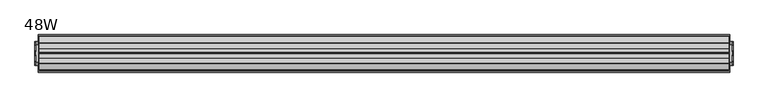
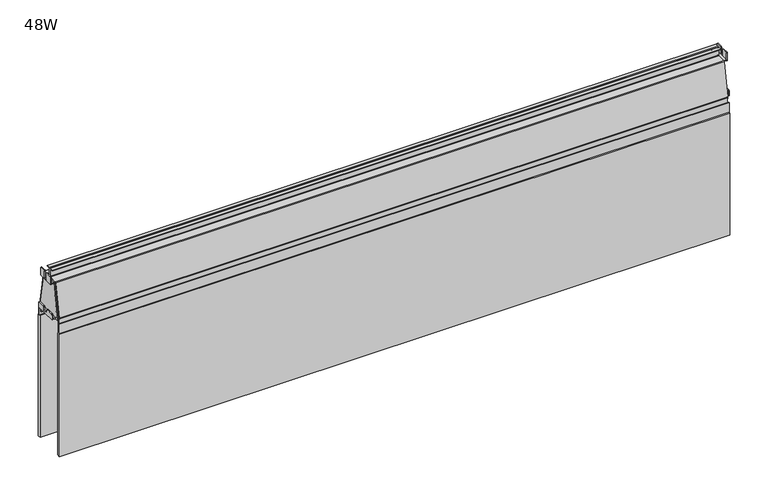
"""IFC4 building model written with IfcOpenShell, lengths in millimetres: furniture geometry, Steelcase Turnstone - Bivi - Accessories - High Sit Bracket with Modesty Panel : 48W."""

from ifc_helpers import new_model, si_unit, point, frame, frame_2d, origin, place, context, project, spatial, polyline, circle_curve, trimmed, segment, composite_curve, outline, extrude, source, transform, mapped, element, save
from ifc_brep_helpers import plane_surface, cylinder_surface, revolved_surface, advanced_brep


def furniture_48w_80b5658e(model_context):
    return source(origin(), model_context, "Body", "SolidModel", [
        extrude(outline(polyline([(1322.578, 62.4245382), (1322.578, 102.4290731), (1326.9973142, 102.4290731), (1326.9973142, 62.4245382), (1322.578, 62.4245382)])), frame((0.0, 0.0, 971.7621964), z_axis=(0.0, 0.0, 1.0), x_axis=(1.0, 0.0, 0.0)), (0.0, 0.0, 1.0), 2.2606178),
        extrude(outline(polyline([(1322.578, 67.9265279), (1322.578, 96.8235489), (1326.9973142, 96.8235489), (1326.9973142, 67.9265279), (1322.578, 67.9265279)])), frame((0.0, 0.0, 1033.6165755), z_axis=(0.0, 0.0, 1.0), x_axis=(1.0, 0.0, 0.0)), (0.0, 0.0, 1.0), 1.7477706),
        extrude(outline(composite_curve([segment(polyline([(67.9265279, 1033.6165755), (67.9265279, 1047.4581981)]), True, "CONTINUOUS"), segment(trimmed(circle_curve(frame_2d((68.8135699, 1047.4581981)), 0.887042), [point((67.9265279, 1047.4581981))], [point((68.8135699, 1048.3452401))], False, "CARTESIAN"), True, "CONTINUOUS"), segment(polyline([(68.8135699, 1048.3452401), (78.2610567, 1048.3452401)]), True, "CONTINUOUS"), segment(trimmed(circle_curve(frame_2d((78.2610567, 1047.1627838)), 1.1824563), [point((78.2610567, 1048.3452401))], [point((79.443513, 1047.1627838))], False, "CARTESIAN"), True, "CONTINUOUS"), segment(polyline([(79.443513, 1047.1627838), (79.443513, 1035.3644915), (85.4277852, 1035.3644915), (85.4277852, 1047.1882087)]), True, "CONTINUOUS"), segment(trimmed(circle_curve(frame_2d((86.5848166, 1047.1882087)), 1.1570313), [point((85.4277852, 1047.1882087))], [point((86.5848166, 1048.3452401))], False, "CARTESIAN"), True, "CONTINUOUS"), segment(polyline([(86.5848166, 1048.3452401), (95.8530462, 1048.3452401)]), True, "CONTINUOUS"), segment(trimmed(circle_curve(frame_2d((95.8530462, 1047.2712029)), 1.0740372), [point((95.8530462, 1048.3452401))], [point((96.9270833, 1047.2712029))], False, "CARTESIAN"), True, "CONTINUOUS"), segment(polyline([(96.9270833, 1047.2712029), (96.9270833, 1033.6165755), (67.9265279, 1033.6165755)]), True, "CONTINUOUS")], self_intersect=False)), frame((1326.9973142, 0.0, 0.0), z_axis=(1.0, 0.0, 0.0), x_axis=(0.0, 1.0, 0.0)), (0.0, 0.0, 1.0), 1.4999084),
        extrude(outline(composite_curve([segment(trimmed(circle_curve(frame_2d((76.0547241, 979.9142284)), 1.9270039), [point((76.0547241, 981.8412323))], [point((77.9817281, 979.9142284))], False, "CARTESIAN"), True, "CONTINUOUS"), segment(polyline([(77.9817281, 979.9142284), (77.9817281, 974.7655741), (86.8718831, 974.7655741), (86.8718831, 980.0617922)]), True, "CONTINUOUS"), segment(trimmed(circle_curve(frame_2d((88.6513232, 980.0617922)), 1.7794401), [point((86.8718831, 980.0617922))], [point((88.6513232, 981.8412323))], False, "CARTESIAN"), True, "CONTINUOUS"), segment(polyline([(88.6513232, 981.8412323), (100.3925404, 981.8412323)]), True, "CONTINUOUS"), segment(trimmed(circle_curve(frame_2d((100.3925404, 979.8046996)), 2.0365327), [point((100.3925404, 981.8412323))], [point((102.4290731, 979.8046996))], False, "CARTESIAN"), True, "CONTINUOUS"), segment(polyline([(102.4290731, 979.8046996), (102.4290731, 971.7621964), (82.4398102, 971.7621964), (62.4245382, 971.7621964), (62.4245382, 980.0326664)]), True, "CONTINUOUS"), segment(trimmed(circle_curve(frame_2d((64.233104, 980.0326664)), 1.8085659), [point((62.4245382, 980.0326664))], [point((64.233104, 981.8412323))], False, "CARTESIAN"), True, "CONTINUOUS"), segment(polyline([(64.233104, 981.8412323), (76.0547241, 981.8412323)]), True, "CONTINUOUS")], self_intersect=False)), frame((1326.9973142, 0.0, 0.0), z_axis=(1.0, 0.0, 0.0), x_axis=(0.0, 1.0, 0.0)), (0.0, 0.0, 1.0), 1.4999084),
        extrude(outline(polyline([(154.178, 62.4245382), (149.7586858, 62.4245382), (149.7586858, 102.4290731), (154.178, 102.4290731), (154.178, 62.4245382)])), frame((0.0, 0.0, 971.7621964), z_axis=(0.0, 0.0, 1.0), x_axis=(1.0, 0.0, 0.0)), (0.0, 0.0, 1.0), 2.2606178),
        extrude(outline(polyline([(154.178, 67.9265279), (149.7586858, 67.9265279), (149.7586858, 96.8235489), (154.178, 96.8235489), (154.178, 67.9265279)])), frame((0.0, 0.0, 1033.6165755), z_axis=(0.0, 0.0, 1.0), x_axis=(1.0, 0.0, 0.0)), (0.0, 0.0, 1.0), 1.7477706),
        extrude(outline(composite_curve([segment(polyline([(67.9265279, 1033.6165755), (67.9265279, 1047.4581981)]), True, "CONTINUOUS"), segment(trimmed(circle_curve(frame_2d((68.8135699, 1047.4581981)), 0.887042), [point((67.9265279, 1047.4581981))], [point((68.8135699, 1048.3452401))], False, "CARTESIAN"), True, "CONTINUOUS"), segment(polyline([(68.8135699, 1048.3452401), (78.2610567, 1048.3452401)]), True, "CONTINUOUS"), segment(trimmed(circle_curve(frame_2d((78.2610567, 1047.1627838)), 1.1824563), [point((78.2610567, 1048.3452401))], [point((79.443513, 1047.1627838))], False, "CARTESIAN"), True, "CONTINUOUS"), segment(polyline([(79.443513, 1047.1627838), (79.443513, 1035.3644915), (85.4277852, 1035.3644915), (85.4277852, 1047.1882087)]), True, "CONTINUOUS"), segment(trimmed(circle_curve(frame_2d((86.5848166, 1047.1882087)), 1.1570313), [point((85.4277852, 1047.1882087))], [point((86.5848166, 1048.3452401))], False, "CARTESIAN"), True, "CONTINUOUS"), segment(polyline([(86.5848166, 1048.3452401), (95.8530462, 1048.3452401)]), True, "CONTINUOUS"), segment(trimmed(circle_curve(frame_2d((95.8530462, 1047.2712029)), 1.0740372), [point((95.8530462, 1048.3452401))], [point((96.9270833, 1047.2712029))], False, "CARTESIAN"), True, "CONTINUOUS"), segment(polyline([(96.9270833, 1047.2712029), (96.9270833, 1033.6165755), (67.9265279, 1033.6165755)]), True, "CONTINUOUS")], self_intersect=False)), frame((148.2587773, 0.0, 0.0), z_axis=(1.0, 0.0, 0.0), x_axis=(0.0, 1.0, 0.0)), (0.0, 0.0, 1.0), 1.4999084),
        extrude(outline(composite_curve([segment(trimmed(circle_curve(frame_2d((76.0547241, 979.9142284)), 1.9270039), [point((76.0547241, 981.8412323))], [point((77.9817281, 979.9142284))], False, "CARTESIAN"), True, "CONTINUOUS"), segment(polyline([(77.9817281, 979.9142284), (77.9817281, 974.7655741), (86.8718831, 974.7655741), (86.8718831, 980.0617922)]), True, "CONTINUOUS"), segment(trimmed(circle_curve(frame_2d((88.6513232, 980.0617922)), 1.7794401), [point((86.8718831, 980.0617922))], [point((88.6513232, 981.8412323))], False, "CARTESIAN"), True, "CONTINUOUS"), segment(polyline([(88.6513232, 981.8412323), (100.3925404, 981.8412323)]), True, "CONTINUOUS"), segment(trimmed(circle_curve(frame_2d((100.3925404, 979.8046996)), 2.0365327), [point((100.3925404, 981.8412323))], [point((102.4290731, 979.8046996))], False, "CARTESIAN"), True, "CONTINUOUS"), segment(polyline([(102.4290731, 979.8046996), (102.4290731, 971.7621964), (82.4398102, 971.7621964), (62.4245382, 971.7621964), (62.4245382, 980.0326664)]), True, "CONTINUOUS"), segment(trimmed(circle_curve(frame_2d((64.233104, 980.0326664)), 1.8085659), [point((62.4245382, 980.0326664))], [point((64.233104, 981.8412323))], False, "CARTESIAN"), True, "CONTINUOUS"), segment(polyline([(64.233104, 981.8412323), (76.0547241, 981.8412323)]), True, "CONTINUOUS")], self_intersect=False)), frame((148.2587773, 0.0, 0.0), z_axis=(1.0, 0.0, 0.0), x_axis=(0.0, 1.0, 0.0)), (0.0, 0.0, 1.0), 1.4999084),
        extrude(outline(polyline([(56.9970023, 971.7621964), (68.2124562, 1035.3644915), (96.5348092, 1035.3644915), (107.8605404, 971.7621964), (56.9970023, 971.7621964)])), frame((1320.9263308, 0.0, 0.0), z_axis=(1.0, 0.0, 0.0), x_axis=(0.0, 1.0, 0.0)), (0.0, 0.0, 1.0), 1.6516692),
        extrude(outline(polyline([(56.9970023, 971.7621964), (68.2124305, 1035.3643461), (96.5348351, 1035.3643461), (107.8605404, 971.7621964), (56.9970023, 971.7621964)])), frame((154.178, 0.0, 0.0), z_axis=(1.0, 0.0, 0.0), x_axis=(0.0, 1.0, 0.0)), (0.0, 0.0, 1.0), 1.6516692),
        advanced_brep(
        [(1320.9263308, 80.9976272, 1037.2195381), (1320.9263308, 65.8460351, 1037.2195381), (1320.9263308, 64.5958542, 1036.1705117), (1320.9263308, 54.1639548, 977.0082706), (1320.9263308, 55.7575032, 975.5715007), (1320.9263308, 55.7575032, 956.4729406), (1320.9263308, 57.2806661, 956.4729406), (1320.9263308, 57.2806661, 975.5229406), (1320.9263308, 107.5729451, 975.5229406), (1320.9263308, 107.5729451, 956.4729406), (1320.9263308, 109.096108, 956.4729406), (1320.9263308, 109.096108, 975.5931057), (1320.9263308, 110.7579884, 977.0082706), (1320.9263308, 100.326089, 1036.1705117), (1320.9263308, 99.0759081, 1037.2195381), (1320.9263308, 83.924316, 1037.2195381), (1320.9263308, 83.3977957, 1037.7460584), (1320.9263308, 83.3977957, 1051.4672481), (1320.9263308, 83.9075425, 1051.9769949), (1320.9263308, 90.0377005, 1051.9769949), (1320.9263308, 90.0377005, 1052.8659668), (1320.9263308, 83.7221189, 1052.8659668), (1320.9263308, 82.5014645, 1051.6453124), (1320.9263308, 81.2494337, 1052.8659668), (1320.9263308, 74.8842427, 1052.8659668), (1320.9263308, 74.8842427, 1051.9769949), (1320.9263308, 81.0144007, 1051.9769949), (1320.9263308, 81.5241475, 1051.4672481), (1320.9263308, 81.5241475, 1037.7460584), (1320.9263308, 66.0050637, 1036.3263319), (1320.9263308, 81.2971318, 1036.3263319), (1320.9263308, 82.4700881, 1037.4992882), (1320.9263308, 83.6744208, 1036.3263319), (1320.9263308, 98.9168795, 1036.3263319), (1320.9263308, 99.4743251, 1035.8585795), (1320.9263308, 109.857677, 976.9716646), (1320.9263308, 109.38866, 976.4127119), (1320.9263308, 55.5332832, 976.4127119), (1320.9263308, 55.0642662, 976.9716646), (1320.9263308, 65.4476181, 1035.8585795), (155.8296692, 80.9976272, 1037.2195381), (155.8296692, 81.5241475, 1037.7460584), (155.8296692, 81.5241475, 1051.4672481), (155.8296692, 81.0144007, 1051.9769949), (155.8296692, 74.8842427, 1051.9769949), (155.8296692, 74.8842427, 1052.8659668), (155.8296692, 81.2494337, 1052.8659668), (155.8296692, 82.4700881, 1051.6453124), (155.8296692, 83.7221189, 1052.8659668), (155.8296692, 90.0377005, 1052.8659668), (155.8296692, 90.0377005, 1051.9769949), (155.8296692, 83.9075425, 1051.9769949), (155.8296692, 83.3977957, 1051.4672481), (155.8296692, 83.3977957, 1037.7460584), (155.8296692, 83.924316, 1037.2195381), (155.8296692, 99.0759081, 1037.2195381), (155.8296692, 100.326089, 1036.1705117), (155.8296692, 110.7579884, 977.0082706), (155.8296692, 109.096108, 975.5931057), (155.8296692, 109.096108, 956.4729406), (155.8296692, 107.5729451, 956.4729406), (155.8296692, 107.5729451, 975.5229406), (155.8296692, 57.2806661, 975.5229406), (155.8296692, 57.2806661, 956.4729406), (155.8296692, 55.7575032, 956.4729406), (155.8296692, 55.7575032, 975.5715007), (155.8296692, 54.1639548, 977.0082706), (155.8296692, 64.5958542, 1036.1705117), (155.8296692, 65.8460351, 1037.2195381), (155.8296692, 66.0050637, 1036.3263319), (155.8296692, 65.4476181, 1035.8585795), (155.8296692, 55.0642662, 976.9716646), (155.8296692, 55.5332832, 976.4127119), (155.8296692, 109.38866, 976.4127119), (155.8296692, 109.857677, 976.9716646), (155.8296692, 99.4743251, 1035.8585795), (155.8296692, 98.9168795, 1036.3263319), (155.8296692, 83.6744208, 1036.3263319), (155.8296692, 82.5014645, 1037.4992882), (155.8296692, 81.2971318, 1036.3263319)],
        [
            (0, 1),
            (1, 2, circle_curve(frame((1320.9263308, 65.8460351, 1035.9500711), z_axis=(1.0, 0.0, 0.0), x_axis=(0.0, -1.0, 0.0)), 1.269467)),
            (2, 3),
            (3, 4, circle_curve(frame((1320.9263308, 55.4102946, 976.7885072), z_axis=(1.0, 0.0, 0.0), x_axis=(0.0, -1.0, 0.0)), 1.2655666)),
            (4, 5),
            (5, 6),
            (6, 7),
            (7, 8),
            (8, 9),
            (9, 10),
            (10, 11),
            (11, 12, circle_curve(frame((1320.9263308, 109.5116486, 976.7885072), z_axis=(1.0, 0.0, 0.0), x_axis=(0.0, -1.0, 0.0)), 1.2655666)),
            (12, 13),
            (13, 14, circle_curve(frame((1320.9263308, 99.0759081, 1035.9500711), z_axis=(1.0, 0.0, 0.0), x_axis=(0.0, -1.0, 0.0)), 1.269467)),
            (14, 15),
            (15, 16, circle_curve(frame((1320.9263308, 83.924316, 1037.7460584), z_axis=(-1.0, 0.0, 0.0), x_axis=(0.0, -1.0, 0.0)), 0.5265203)),
            (16, 17),
            (17, 18, circle_curve(frame((1320.9263308, 83.9075425, 1051.4672481), z_axis=(-1.0, 0.0, 0.0), x_axis=(0.0, -1.0, 0.0)), 0.5097468)),
            (18, 19),
            (19, 20),
            (20, 21),
            (21, 22, circle_curve(frame((1320.9263308, 83.7221189, 1051.6453124), z_axis=(1.0, 0.0, 0.0), x_axis=(0.0, -1.0, 0.0)), 1.2206544)),
            (22, 23, circle_curve(frame((1320.9263308, 81.2494337, 1051.6453124), z_axis=(1.0, 0.0, 0.0), x_axis=(0.0, -1.0, 0.0)), 1.2206544)),
            (23, 24),
            (24, 25),
            (25, 26),
            (26, 27, circle_curve(frame((1320.9263308, 81.0144007, 1051.4672481), z_axis=(-1.0, 0.0, 0.0), x_axis=(0.0, -1.0, 0.0)), 0.5097468)),
            (27, 28),
            (28, 0, circle_curve(frame((1320.9263308, 80.9976272, 1037.7460584), z_axis=(-1.0, 0.0, 0.0), x_axis=(0.0, -1.0, 0.0)), 0.5265203)),
            (29, 30),
            (30, 31, circle_curve(frame((1320.9263308, 81.2971318, 1037.4992882), z_axis=(1.0, 0.0, 0.0), x_axis=(0.0, -1.0, 0.0)), 1.1729562)),
            (31, 32, circle_curve(frame((1320.9263308, 83.6744208, 1037.4992882), z_axis=(1.0, 0.0, 0.0), x_axis=(0.0, -1.0, 0.0)), 1.1729562)),
            (32, 33),
            (33, 34, circle_curve(frame((1320.9263308, 98.9168795, 1035.7602868), z_axis=(-1.0, 0.0, 0.0), x_axis=(0.0, -1.0, 0.0)), 0.5660451)),
            (34, 35),
            (35, 36, circle_curve(frame((1320.9263308, 109.38866, 976.8889643), z_axis=(-1.0, 0.0, 0.0), x_axis=(0.0, -1.0, 0.0)), 0.4762524)),
            (36, 37),
            (37, 38, circle_curve(frame((1320.9263308, 55.5332832, 976.8889643), z_axis=(-1.0, 0.0, 0.0), x_axis=(0.0, -1.0, 0.0)), 0.4762524)),
            (38, 39),
            (39, 29, circle_curve(frame((1320.9263308, 66.0050637, 1035.7602868), z_axis=(-1.0, 0.0, 0.0), x_axis=(0.0, -1.0, 0.0)), 0.5660451)),
            (40, 41, circle_curve(frame((155.8296692, 80.9976272, 1037.7460584), z_axis=(1.0, 0.0, 0.0), x_axis=(0.0, -1.0, 0.0)), 0.5265203)),
            (41, 42),
            (42, 43, circle_curve(frame((155.8296692, 81.0144007, 1051.4672481), z_axis=(1.0, 0.0, 0.0), x_axis=(0.0, -1.0, 0.0)), 0.5097468)),
            (43, 44),
            (44, 45),
            (45, 46),
            (46, 47, circle_curve(frame((155.8296692, 81.2494337, 1051.6453124), z_axis=(-1.0, 0.0, 0.0), x_axis=(0.0, -1.0, 0.0)), 1.2206544)),
            (47, 48, circle_curve(frame((155.8296692, 83.7221189, 1051.6453124), z_axis=(-1.0, 0.0, 0.0), x_axis=(0.0, -1.0, 0.0)), 1.2206544)),
            (48, 49),
            (49, 50),
            (50, 51),
            (51, 52, circle_curve(frame((155.8296692, 83.9075425, 1051.4672481), z_axis=(1.0, 0.0, 0.0), x_axis=(0.0, -1.0, 0.0)), 0.5097468)),
            (52, 53),
            (53, 54, circle_curve(frame((155.8296692, 83.924316, 1037.7460584), z_axis=(1.0, 0.0, 0.0), x_axis=(0.0, -1.0, 0.0)), 0.5265203)),
            (54, 55),
            (55, 56, circle_curve(frame((155.8296692, 99.0759081, 1035.9500711), z_axis=(-1.0, 0.0, 0.0), x_axis=(0.0, -1.0, 0.0)), 1.269467)),
            (56, 57),
            (57, 58, circle_curve(frame((155.8296692, 109.5116486, 976.7885072), z_axis=(-1.0, 0.0, 0.0), x_axis=(0.0, -1.0, 0.0)), 1.2655666)),
            (58, 59),
            (59, 60),
            (60, 61),
            (61, 62),
            (62, 63),
            (63, 64),
            (64, 65),
            (65, 66, circle_curve(frame((155.8296692, 55.4102946, 976.7885072), z_axis=(-1.0, 0.0, 0.0), x_axis=(0.0, -1.0, 0.0)), 1.2655666)),
            (66, 67),
            (67, 68, circle_curve(frame((155.8296692, 65.8460351, 1035.9500711), z_axis=(-1.0, 0.0, 0.0), x_axis=(0.0, -1.0, 0.0)), 1.269467)),
            (68, 40),
            (69, 70, circle_curve(frame((155.8296692, 66.0050637, 1035.7602868), z_axis=(1.0, 0.0, 0.0), x_axis=(0.0, -1.0, 0.0)), 0.5660451)),
            (70, 71),
            (71, 72, circle_curve(frame((155.8296692, 55.5332832, 976.8889643), z_axis=(1.0, 0.0, 0.0), x_axis=(0.0, -1.0, 0.0)), 0.4762524)),
            (72, 73),
            (73, 74, circle_curve(frame((155.8296692, 109.38866, 976.8889643), z_axis=(1.0, 0.0, 0.0), x_axis=(0.0, -1.0, 0.0)), 0.4762524)),
            (74, 75),
            (75, 76, circle_curve(frame((155.8296692, 98.9168795, 1035.7602868), z_axis=(1.0, 0.0, 0.0), x_axis=(0.0, -1.0, 0.0)), 0.5660451)),
            (76, 77),
            (77, 78, circle_curve(frame((155.8296692, 83.6744208, 1037.4992882), z_axis=(-1.0, 0.0, 0.0), x_axis=(0.0, -1.0, 0.0)), 1.1729562)),
            (78, 79, circle_curve(frame((155.8296692, 81.2971318, 1037.4992882), z_axis=(-1.0, 0.0, 0.0), x_axis=(0.0, -1.0, 0.0)), 1.1729562)),
            (79, 69),
            (28, 41),
            (40, 0),
            (27, 42),
            (26, 43),
            (25, 44),
            (24, 45),
            (23, 46),
            (22, 47),
            (21, 48),
            (20, 49),
            (19, 50),
            (18, 51),
            (17, 52),
            (16, 53),
            (15, 54),
            (14, 55),
            (13, 56),
            (12, 57),
            (11, 58),
            (10, 59),
            (9, 60),
            (8, 61),
            (7, 62),
            (6, 63),
            (5, 64),
            (4, 65),
            (3, 66),
            (2, 67),
            (1, 68),
            (39, 70),
            (69, 29),
            (38, 71),
            (37, 72),
            (36, 73),
            (35, 74),
            (34, 75),
            (33, 76),
            (32, 77),
            (31, 78),
            (30, 79),
        ],
        [
            plane_surface(frame((1320.9263308, 80.4711069, 1037.7460584), z_axis=(1.0, 0.0, 0.0), x_axis=(0.0, 0.0, -1.0))),
            plane_surface(frame((155.8296692, 80.4711069, 1037.7460584), z_axis=(-1.0, 0.0, 0.0), x_axis=(0.0, 0.0, 1.0))),
            revolved_surface(polyline([(155.8296692, 80.4711069, 1037.7460584), (1320.9263308, 80.4711069, 1037.7460584)]), (155.8296692, 80.9976272, 1037.7460584), (-1.0, 0.0, 0.0)),
            plane_surface(frame((1320.9263308, 81.5241475, 1037.7460584), z_axis=(0.0, -1.0, 0.0), x_axis=(-1.0, 0.0, 0.0))),
            revolved_surface(polyline([(155.8296692, 80.5046539, 1051.4672481), (1320.9263308, 80.5046539, 1051.4672481)]), (155.8296692, 81.0144007, 1051.4672481), (-1.0, 0.0, 0.0)),
            plane_surface(frame((1320.9263308, 81.0144007, 1051.9769949), z_axis=(0.0, 0.0, -1.0), x_axis=(-1.0, 0.0, 0.0))),
            plane_surface(frame((1320.9263308, 74.8842427, 1051.9769949), z_axis=(0.0, -1.0, 0.0), x_axis=(-1.0, 0.0, 0.0))),
            plane_surface(frame((1320.9263308, 74.8842427, 1052.8659668), z_axis=(0.0, 0.0, 1.0), x_axis=(-1.0, 0.0, 0.0))),
            cylinder_surface(frame((155.8296692, 81.2494337, 1051.6453124), z_axis=(1.0, 0.0, 0.0), x_axis=(0.0, -1.0, 0.0)), 1.2206544),
            cylinder_surface(frame((155.8296692, 83.7221189, 1051.6453124), z_axis=(1.0, 0.0, 0.0), x_axis=(0.0, -1.0, 0.0)), 1.2206544),
            plane_surface(frame((1320.9263308, 83.7221189, 1052.8659668), z_axis=(0.0, 0.0, 1.0), x_axis=(-1.0, 0.0, 0.0))),
            plane_surface(frame((1320.9263308, 90.0377005, 1052.8659668), z_axis=(0.0, 1.0, 0.0), x_axis=(-1.0, 0.0, 0.0))),
            plane_surface(frame((1320.9263308, 90.0377005, 1051.9769949), z_axis=(0.0, 0.0, -1.0), x_axis=(-1.0, 0.0, 0.0))),
            revolved_surface(polyline([(155.8296692, 83.3977957, 1051.4672481), (1320.9263308, 83.3977957, 1051.4672481)]), (155.8296692, 83.9075425, 1051.4672481), (-1.0, 0.0, 0.0)),
            plane_surface(frame((1320.9263308, 83.3977957, 1051.4672481), z_axis=(0.0, 1.0, 0.0), x_axis=(-1.0, 0.0, 0.0))),
            revolved_surface(polyline([(155.8296692, 83.3977957, 1037.7460584), (1320.9263308, 83.3977957, 1037.7460584)]), (155.8296692, 83.924316, 1037.7460584), (-1.0, 0.0, 0.0)),
            plane_surface(frame((1320.9263308, 83.924316, 1037.2195381), z_axis=(0.0, 0.0, 1.0), x_axis=(-1.0, 0.0, 0.0))),
            cylinder_surface(frame((155.8296692, 99.0759081, 1035.9500711), z_axis=(1.0, 0.0, 0.0), x_axis=(0.0, -1.0, 0.0)), 1.269467),
            plane_surface(frame((1320.9263308, 100.326089, 1036.1705117), z_axis=(0.0, 0.9848077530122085, 0.17364817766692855), x_axis=(-1.0, 0.0, 0.0))),
            cylinder_surface(frame((155.8296692, 109.5116486, 976.7885072), z_axis=(1.0, 0.0, 0.0), x_axis=(0.0, -1.0, 0.0)), 1.2655666),
            plane_surface(frame((1320.9263308, 109.096108, 975.5931057), z_axis=(0.0, 1.0, 0.0), x_axis=(-1.0, 0.0, 0.0))),
            plane_surface(frame((1320.9263308, 109.096108, 956.4729406), z_axis=(0.0, 0.0, -1.0), x_axis=(-1.0, 0.0, 0.0))),
            plane_surface(frame((1320.9263308, 107.5729451, 956.4729406), z_axis=(0.0, -1.0, 0.0), x_axis=(-1.0, 0.0, 0.0))),
            plane_surface(frame((1320.9263308, 107.5729451, 975.5229406), z_axis=(0.0, 0.0, -1.0), x_axis=(-1.0, 0.0, 0.0))),
            plane_surface(frame((1320.9263308, 57.2806661, 975.5229406), z_axis=(0.0, 1.0, 0.0), x_axis=(-1.0, 0.0, 0.0))),
            plane_surface(frame((1320.9263308, 57.2806661, 956.4729406), z_axis=(0.0, 0.0, -1.0), x_axis=(-1.0, 0.0, 0.0))),
            plane_surface(frame((1320.9263308, 55.7575032, 956.4729406), z_axis=(0.0, -1.0, 0.0), x_axis=(-1.0, 0.0, 0.0))),
            cylinder_surface(frame((155.8296692, 55.4102946, 976.7885072), z_axis=(1.0, 0.0, 0.0), x_axis=(0.0, -1.0, 0.0)), 1.2655666),
            plane_surface(frame((1320.9263308, 54.1639548, 977.0082706), z_axis=(0.0, -0.9848077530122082, 0.17364817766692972), x_axis=(-1.0, 0.0, 0.0))),
            cylinder_surface(frame((155.8296692, 65.8460351, 1035.9500711), z_axis=(1.0, 0.0, 0.0), x_axis=(0.0, -1.0, 0.0)), 1.269467),
            plane_surface(frame((1320.9263308, 65.8460351, 1037.2195381), z_axis=(0.0, 0.0, 1.0), x_axis=(-1.0, 0.0, 0.0))),
            revolved_surface(polyline([(155.8296692, 65.4390186, 1035.7602868), (1320.9263308, 65.4390186, 1035.7602868)]), (154.178, 66.0050637, 1035.7602868), (-1.0, 0.0, 0.0)),
            plane_surface(frame((1320.9263308, 65.4476181, 1035.8585795), z_axis=(0.0, 0.9848077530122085, -0.17364817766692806), x_axis=(-1.0, 0.0, 0.0))),
            revolved_surface(polyline([(155.8296692, 55.0570308, 976.8889643), (1320.9263308, 55.0570308, 976.8889643)]), (154.178, 55.5332832, 976.8889643), (-1.0, 0.0, 0.0)),
            plane_surface(frame((1320.9263308, 55.5332832, 976.4127119), z_axis=(0.0, 0.0, 1.0), x_axis=(-1.0, 0.0, 0.0))),
            revolved_surface(polyline([(155.8296692, 108.9124076, 976.8889643), (1320.9263308, 108.9124076, 976.8889643)]), (154.178, 109.38866, 976.8889643), (-1.0, 0.0, 0.0)),
            plane_surface(frame((1320.9263308, 109.857677, 976.9716646), z_axis=(0.0, -0.9848077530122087, -0.17364817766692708), x_axis=(-1.0, 0.0, 0.0))),
            revolved_surface(polyline([(155.8296692, 98.3508344, 1035.7602868), (1320.9263308, 98.3508344, 1035.7602868)]), (154.178, 98.9168795, 1035.7602868), (-1.0, 0.0, 0.0)),
            plane_surface(frame((1320.9263308, 98.9168795, 1036.3263319), z_axis=(0.0, 0.0, -1.0), x_axis=(-1.0, 0.0, 0.0))),
            cylinder_surface(frame((154.178, 83.6744208, 1037.4992882), z_axis=(1.0, 0.0, 0.0), x_axis=(0.0, -1.0, 0.0)), 1.1729562),
            cylinder_surface(frame((154.178, 81.2971318, 1037.4992882), z_axis=(1.0, 0.0, 0.0), x_axis=(0.0, -1.0, 0.0)), 1.1729562),
            plane_surface(frame((1320.9263308, 81.2971318, 1036.3263319), z_axis=(0.0, 0.0, -1.0), x_axis=(-1.0, 0.0, 0.0))),
        ],
        [
            (0, [[1, 2, 3, 4, 5, 6, 7, 8, 9, 10, 11, 12, 13, 14, 15, 16, 17, 18, 19, 20, 21, 22, 23, 24, 25, 26, 27, 28, 29], [30, 31, 32, 33, 34, 35, 36, 37, 38, 39, 40]]),
            (1, [[41, 42, 43, 44, 45, 46, 47, 48, 49, 50, 51, 52, 53, 54, 55, 56, 57, 58, 59, 60, 61, 62, 63, 64, 65, 66, 67, 68, 69], [70, 71, 72, 73, 74, 75, 76, 77, 78, 79, 80]]),
            (2, [[81, -41, 82, -29]]),
            (3, [[83, -42, -81, -28]]),
            (4, [[84, -43, -83, -27]]),
            (5, [[85, -44, -84, -26]]),
            (6, [[86, -45, -85, -25]]),
            (7, [[87, -46, -86, -24]]),
            (8, [[88, -47, -87, -23]]),
            (9, [[89, -48, -88, -22]]),
            (10, [[90, -49, -89, -21]]),
            (11, [[91, -50, -90, -20]]),
            (12, [[92, -51, -91, -19]]),
            (13, [[93, -52, -92, -18]]),
            (14, [[94, -53, -93, -17]]),
            (15, [[95, -54, -94, -16]]),
            (16, [[96, -55, -95, -15]]),
            (17, [[97, -56, -96, -14]]),
            (18, [[98, -57, -97, -13]]),
            (19, [[99, -58, -98, -12]]),
            (20, [[100, -59, -99, -11]]),
            (21, [[101, -60, -100, -10]]),
            (22, [[102, -61, -101, -9]]),
            (23, [[103, -62, -102, -8]]),
            (24, [[104, -63, -103, -7]]),
            (25, [[105, -64, -104, -6]]),
            (26, [[106, -65, -105, -5]]),
            (27, [[107, -66, -106, -4]]),
            (28, [[108, -67, -107, -3]]),
            (29, [[109, -68, -108, -2]]),
            (30, [[-82, -69, -109, -1]]),
            (31, [[110, -70, 111, -40]]),
            (32, [[112, -71, -110, -39]]),
            (33, [[113, -72, -112, -38]]),
            (34, [[114, -73, -113, -37]]),
            (35, [[115, -74, -114, -36]]),
            (36, [[116, -75, -115, -35]]),
            (37, [[117, -76, -116, -34]]),
            (38, [[118, -77, -117, -33]]),
            (39, [[119, -78, -118, -32]]),
            (40, [[120, -79, -119, -31]]),
            (41, [[-111, -80, -120, -30]]),
        ],
    ),
        extrude(outline(polyline([(54.1343465, 967.1858042), (54.1343465, 949.6150017), (56.1923604, 949.6150017), (56.1923604, 724.5711073), (50.6089803, 724.5711073), (50.6089803, 949.6150017), (52.6693197, 949.6150017), (52.6693197, 967.1858042), (54.1343465, 967.1858042)])), frame((154.178, 0.0, 0.0), z_axis=(1.0, 0.0, 0.0), x_axis=(0.0, 1.0, 0.0)), (0.0, 0.0, 1.0), 1168.4),
        extrude(outline(polyline([(110.7215902, 967.1858042), (112.186617, 967.1858042), (112.186617, 949.6150017), (114.2469564, 949.6150017), (114.2469564, 724.5711073), (108.6635762, 724.5711073), (108.6635762, 949.6150017), (110.7215902, 949.6150017), (110.7215902, 967.1858042)])), frame((154.178, 0.0, 0.0), z_axis=(1.0, 0.0, 0.0), x_axis=(0.0, 1.0, 0.0)), (0.0, 0.0, 1.0), 1168.4),
    ])


if __name__ == "__main__":
    model = new_model("IFC4")
    model_context = context("Model", 3, world=origin())
    ifc_project = project(units=[si_unit("LENGTHUNIT", "METRE", prefix="MILLI")], contexts=[model_context])
    site = spatial("IfcSite", under=ifc_project)
    building = spatial("IfcBuilding", under=site)
    placement = place(None, origin())
    furniture_48w_shape = furniture_48w_80b5658e(model_context)
    element("IfcFurniture", 1, ObjectType="Steelcase Turnstone - Bivi - Accessories - High Sit Bracket with Modesty Panel : 48W", at=placement, inside=building, context=model_context, shape_type="MappedRepresentation", body=[
        mapped(furniture_48w_shape, transform((0.0, 0.0, 0.0), x_axis=(1.0, 0.0, 0.0), y_axis=(0.0, 1.0, 0.0), z_axis=(0.0, 0.0, 1.0))),
    ])
    save(model, "model.ifc")
